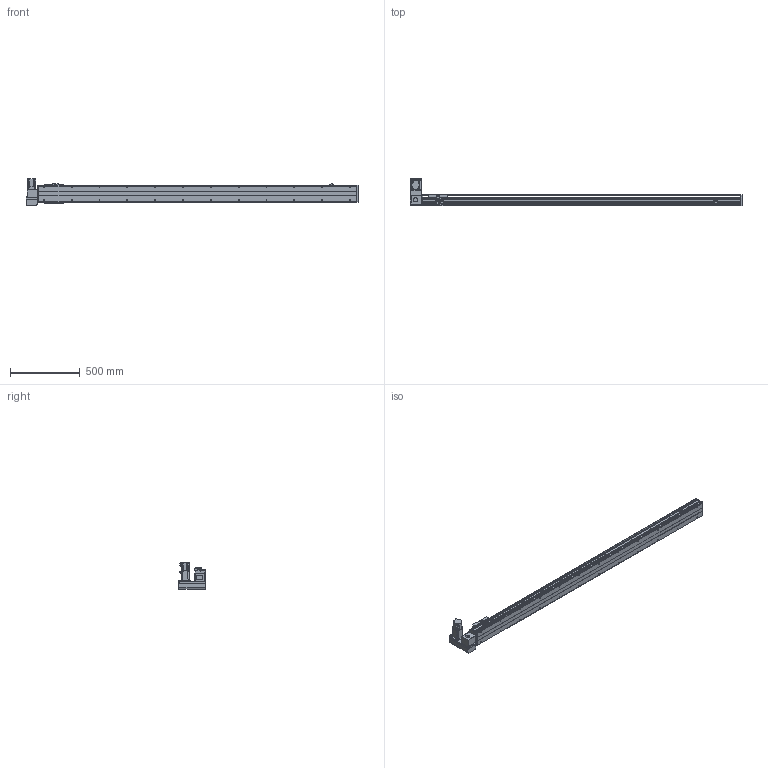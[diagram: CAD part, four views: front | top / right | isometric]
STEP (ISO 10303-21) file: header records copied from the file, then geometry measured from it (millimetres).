
FILE_DESCRIPTION( ( 'STEP AP214' ), '1' );
FILE_NAME( 'x:/temp/worker_27/temp/exporttempdir_6708_124_TpDdm/format_0/PBS120-P40-S2000-LU-T40-C1-N(0).stp', '2022-06-06T00:33:20', ( 'License CC BY-ND 4.0' ), ( 'CADENAS' ), ' ', 'PARTsolutions', ' ' );
FILE_SCHEMA( ( 'AUTOMOTIVE_DESIGN { 1 0 10303 214 1 1 1 1 }' ) );
Length unit declared in the file: millimetre
Products named in the file (7): PBS120-P40-S2000-LU-T40-C1-N(0); _PBS120-S2000()_body; _PBS120T-LU_motors; _T40-p1; _PBS120_sliser; _PBS120_plant; _PBS120_sensor
Assembly tree (8 placements, depth 2):
  PBS120-P40-S2000-LU-T40-C1-N(0)
    _PBS120-S2000()_body
    _PBS120T-LU_motors
    _T40-p1
    _PBS120_sliser
    _PBS120_plant
    _PBS120_sensor  x3
Bounding box: 2386 x 198 x 189.7 mm (x, y, z)
Volume: 9216353.3 mm3; surface area: 1881818.6 mm2
Topology: 8 solids, 8 shells, 852 faces, 2196 edges, 1411 vertices
Faces by surface type: plane 557, cylinder 237, cone 56, torus 2
Full cylindrical faces by diameter (mm): 2.459 x6, 3.242 x4, 4 x2, 4.134 x4, 4.5 x10, 4.917 x28, 5.5 x11, 6 x2, 6.6 x1, 7 x2, 8.5 x4, 9 x4, 12 x1, 14 x1, 30 x2, 40 x1, 50 x2
Entity records: 27996 total; most frequent: DIRECTION 3836, CARTESIAN_POINT 3749, ORIENTED_EDGE 3550, EDGE_CURVE 1775, AXIS2_PLACEMENT_3D 1304, LINE 1228, VECTOR 1228, VERTEX_POINT 1217
